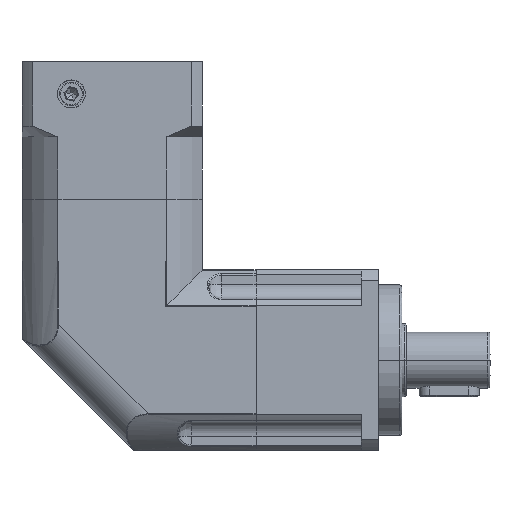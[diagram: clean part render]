
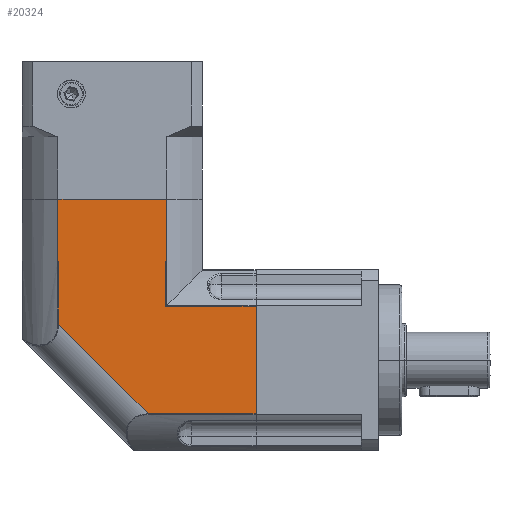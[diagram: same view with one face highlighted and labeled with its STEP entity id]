
A CAD part, left-side view. The second image highlights one B-rep face of the part: STEP entity #20324.
In plain terms, the highlighted planar face has unit normal (-1, 0, 0).
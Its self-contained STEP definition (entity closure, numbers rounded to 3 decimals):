
#2776 = CARTESIAN_POINT ( 'NONE',  ( -21., -33.5, -25.498 ) ) ;
#4229 = LINE ( 'NONE', #6091, #29163 ) ;
#4869 = VERTEX_POINT ( 'NONE', #36711 ) ;
#5238 = DIRECTION ( 'NONE',  ( 0., 0., 1. ) ) ;
#5462 = CARTESIAN_POINT ( 'NONE',  ( -21., 12.508, -4.63 ) ) ;
#5527 = VECTOR ( 'NONE', #24416, 1000. ) ;
#5808 = VERTEX_POINT ( 'NONE', #29121 ) ;
#6091 = CARTESIAN_POINT ( 'NONE',  ( -21., -8.36, -25.498 ) ) ;
#6277 = ORIENTED_EDGE ( 'NONE', *, *, #23352, .F. ) ;
#6296 = DIRECTION ( 'NONE',  ( 0., 0.707, 0.707 ) ) ;
#6467 = DIRECTION ( 'NONE',  ( 0., 0., -1. ) ) ;
#7021 = VERTEX_POINT ( 'NONE', #16425 ) ;
#7079 = CARTESIAN_POINT ( 'NONE',  ( -21., -15.5, 10.01 ) ) ;
#8144 = CARTESIAN_POINT ( 'NONE',  ( -21., 0., 24.5 ) ) ;
#10876 = VERTEX_POINT ( 'NONE', #13161 ) ;
#11373 = ORIENTED_EDGE ( 'NONE', *, *, #25989, .F. ) ;
#11425 = CARTESIAN_POINT ( 'NONE',  ( -21., 12.619, 10.01 ) ) ;
#12311 = VECTOR ( 'NONE', #40970, 1000. ) ;
#12410 = VECTOR ( 'NONE', #38219, 1000. ) ;
#12595 = CARTESIAN_POINT ( 'NONE',  ( -21., 12.508, 10.01 ) ) ;
#12726 = ORIENTED_EDGE ( 'NONE', *, *, #22359, .F. ) ;
#13161 = CARTESIAN_POINT ( 'NONE',  ( -21., 12.619, 24.5 ) ) ;
#13313 = LINE ( 'NONE', #28885, #12410 ) ;
#13332 = LINE ( 'NONE', #34637, #12311 ) ;
#13813 = DIRECTION ( 'NONE',  ( 0., 0., 1. ) ) ;
#14205 = DIRECTION ( 'NONE',  ( 0., 0., 1. ) ) ;
#14820 = LINE ( 'NONE', #37207, #38299 ) ;
#16024 = VERTEX_POINT ( 'NONE', #33073 ) ;
#16425 = CARTESIAN_POINT ( 'NONE',  ( -21., -12.508, 10.01 ) ) ;
#16492 = LINE ( 'NONE', #17421, #40928 ) ;
#16811 = DIRECTION ( 'NONE',  ( 0., 1., 0. ) ) ;
#17225 = VECTOR ( 'NONE', #13813, 1000. ) ;
#17370 = VERTEX_POINT ( 'NONE', #18794 ) ;
#17421 = CARTESIAN_POINT ( 'NONE',  ( -21., 12.619, -0.371 ) ) ;
#17766 = LINE ( 'NONE', #39079, #17225 ) ;
#17937 = CARTESIAN_POINT ( 'NONE',  ( -21., -15.5, -0.482 ) ) ;
#18794 = CARTESIAN_POINT ( 'NONE',  ( -21., -12.619, 24.5 ) ) ;
#18878 = VERTEX_POINT ( 'NONE', #11425 ) ;
#19142 = VERTEX_POINT ( 'NONE', #5462 ) ;
#19286 = VERTEX_POINT ( 'NONE', #2776 ) ;
#19774 = LINE ( 'NONE', #17937, #36756 ) ;
#20324 = ADVANCED_FACE ( 'NONE', ( #30713 ), #24623, .F. ) ;
#20397 = ORIENTED_EDGE ( 'NONE', *, *, #29951, .F. ) ;
#21320 = CARTESIAN_POINT ( 'NONE',  ( -21., -15.5, -0.371 ) ) ;
#22086 = ORIENTED_EDGE ( 'NONE', *, *, #27408, .F. ) ;
#22255 = DIRECTION ( 'NONE',  ( 0., 1., 0. ) ) ;
#22351 = CARTESIAN_POINT ( 'NONE',  ( -21., -15.5, 10.01 ) ) ;
#22359 = EDGE_CURVE ( 'NONE', #19142, #29662, #17766, .T. ) ;
#23352 = EDGE_CURVE ( 'NONE', #29662, #18878, #31437, .T. ) ;
#24416 = DIRECTION ( 'NONE',  ( 0., -1., 0. ) ) ;
#24468 = DIRECTION ( 'NONE',  ( 1., 0., 0. ) ) ;
#24476 = ORIENTED_EDGE ( 'NONE', *, *, #33478, .F. ) ;
#24489 = EDGE_CURVE ( 'NONE', #5808, #7021, #39544, .T. ) ;
#24623 = PLANE ( 'NONE',  #32502 ) ;
#25075 = EDGE_CURVE ( 'NONE', #7021, #4869, #13313, .T. ) ;
#25989 = EDGE_CURVE ( 'NONE', #4869, #16024, #19774, .T. ) ;
#25995 = CARTESIAN_POINT ( 'NONE',  ( -21., -8.36, -25.498 ) ) ;
#26253 = ORIENTED_EDGE ( 'NONE', *, *, #24489, .F. ) ;
#27232 = EDGE_CURVE ( 'NONE', #10876, #17370, #31280, .T. ) ;
#27408 = EDGE_CURVE ( 'NONE', #16024, #19286, #28744, .T. ) ;
#28316 = EDGE_CURVE ( 'NONE', #19286, #33987, #14820, .T. ) ;
#28744 = LINE ( 'NONE', #41530, #36114 ) ;
#28885 = CARTESIAN_POINT ( 'NONE',  ( -21., -12.508, -0.371 ) ) ;
#29121 = CARTESIAN_POINT ( 'NONE',  ( -21., -12.619, 10.01 ) ) ;
#29163 = VECTOR ( 'NONE', #6296, 1000. ) ;
#29662 = VERTEX_POINT ( 'NONE', #12595 ) ;
#29670 = ORIENTED_EDGE ( 'NONE', *, *, #25075, .F. ) ;
#29951 = EDGE_CURVE ( 'NONE', #33987, #19142, #4229, .T. ) ;
#30713 = FACE_OUTER_BOUND ( 'NONE', #35830, .T. ) ;
#31093 = ORIENTED_EDGE ( 'NONE', *, *, #28316, .F. ) ;
#31280 = LINE ( 'NONE', #8144, #5527 ) ;
#31437 = LINE ( 'NONE', #22351, #31556 ) ;
#31556 = VECTOR ( 'NONE', #22255, 1000. ) ;
#32502 = AXIS2_PLACEMENT_3D ( 'NONE', #21320, #24468, #5238 ) ;
#33073 = CARTESIAN_POINT ( 'NONE',  ( -21., -33.5, -0.482 ) ) ;
#33478 = EDGE_CURVE ( 'NONE', #17370, #5808, #13332, .T. ) ;
#33987 = VERTEX_POINT ( 'NONE', #25995 ) ;
#34637 = CARTESIAN_POINT ( 'NONE',  ( -21., -12.619, -0.371 ) ) ;
#35746 = ORIENTED_EDGE ( 'NONE', *, *, #27232, .F. ) ;
#35830 = EDGE_LOOP ( 'NONE', ( #31093, #22086, #11373, #29670, #26253, #24476, #35746, #39540, #6277, #12726, #20397 ) ) ;
#36114 = VECTOR ( 'NONE', #6467, 1000. ) ;
#36711 = CARTESIAN_POINT ( 'NONE',  ( -21., -12.508, -0.482 ) ) ;
#36756 = VECTOR ( 'NONE', #40234, 1000. ) ;
#37207 = CARTESIAN_POINT ( 'NONE',  ( -21., -15.5, -25.498 ) ) ;
#38219 = DIRECTION ( 'NONE',  ( 0., 0., -1. ) ) ;
#38299 = VECTOR ( 'NONE', #40380, 1000. ) ;
#39068 = EDGE_CURVE ( 'NONE', #18878, #10876, #16492, .T. ) ;
#39079 = CARTESIAN_POINT ( 'NONE',  ( -21., 12.508, -0.371 ) ) ;
#39540 = ORIENTED_EDGE ( 'NONE', *, *, #39068, .F. ) ;
#39544 = LINE ( 'NONE', #7079, #40755 ) ;
#40234 = DIRECTION ( 'NONE',  ( 0., -1., 0. ) ) ;
#40380 = DIRECTION ( 'NONE',  ( 0., 1., 0. ) ) ;
#40755 = VECTOR ( 'NONE', #16811, 1000. ) ;
#40928 = VECTOR ( 'NONE', #14205, 1000. ) ;
#40970 = DIRECTION ( 'NONE',  ( 0., 0., -1. ) ) ;
#41530 = CARTESIAN_POINT ( 'NONE',  ( -21., -33.5, -0.371 ) ) ;
